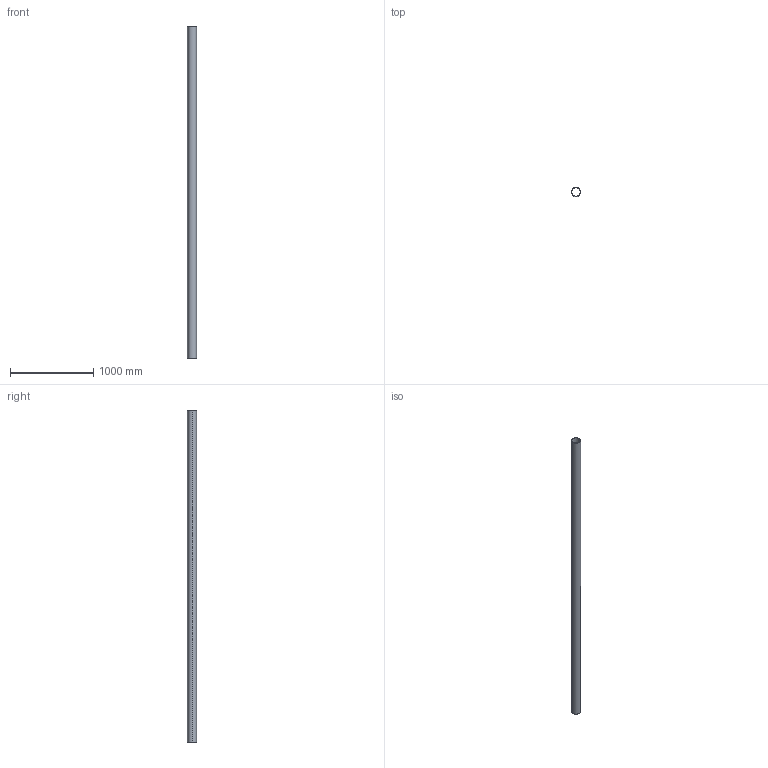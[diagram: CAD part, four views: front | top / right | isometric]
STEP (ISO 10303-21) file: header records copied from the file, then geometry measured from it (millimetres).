
FILE_DESCRIPTION (( 'STEP AP214' ), '1' );
FILE_NAME ('900000011HTGRA.STEP', '2012-10-22T14:59:58', ( '' ), ( '' ), 'SwSTEP 2.0', 'SolidWorks 2012', '' );
FILE_SCHEMA (( 'AUTOMOTIVE_DESIGN' ));
Length unit declared in the file: millimetre
Products named in the file (1): 900000011HTGRA
Bounding box: 110 x 110 x 4000 mm (x, y, z)
Volume: 3377212.1 mm3; surface area: 2703458.3 mm2
Topology: 1 solids, 1 shells, 6 faces, 12 edges, 8 vertices
Faces by surface type: cylinder 4, plane 2
Entity records: 224 total; most frequent: DIRECTION 34, CARTESIAN_POINT 27, ORIENTED_EDGE 24, AXIS2_PLACEMENT_3D 15, EDGE_CURVE 12, CIRCLE 8, EDGE_LOOP 8, VERTEX_POINT 8
